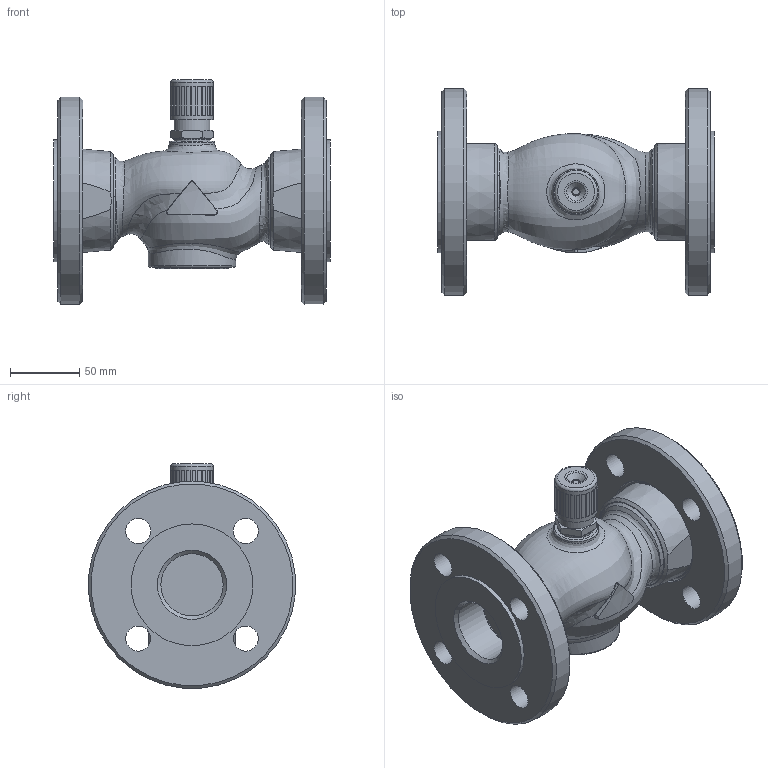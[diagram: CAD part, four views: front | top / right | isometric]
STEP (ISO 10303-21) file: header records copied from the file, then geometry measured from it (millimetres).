
FILE_DESCRIPTION(/* description */ (''),/* implementation_level */ '2;1');
FILE_NAME(/* name */ 'rv111r_dn40_2_F.stp',/* time_stamp */ '2012-01-25T07:42:34+01:00',/* author */ ('KLIMES'),/* organization */ ('LDM'),/* preprocessor_version */ 'ST-DEVELOPER v11',/* originating_system */ 'SIEMENS PLM Software NX 7.0',/* authorisation */ '');
FILE_SCHEMA (('CONFIG_CONTROL_DESIGN'));
Length unit declared in the file: millimetre
Products named in the file (1): klimF827cccu
Bounding box: 200 x 149.43 x 162.16 mm (x, y, z)
Volume: 1256795.9 mm3; surface area: 164186.6 mm2
Topology: 4 solids, 4 shells, 287 faces, 659 edges, 421 vertices
Faces by surface type: plane 139, cone 65, cylinder 41, bspline 26, torus 16
Full cylindrical faces by diameter (mm): 8 x1, 18 x8, 23.4 x1, 24.117 x1, 26 x1, 26.5 x1, 30.8 x1, 33 x1, 45 x2, 56 x1, 62.752 x2, 63 x1, 65.71 x2, 66 x2, 88 x2, 150 x2
Entity records: 13788 total; most frequent: CARTESIAN_POINT 7694, DIRECTION 1238, ORIENTED_EDGE 1122, EDGE_CURVE 561, AXIS2_PLACEMENT_3D 507, EDGE_LOOP 419, VERTEX_POINT 394, ADVANCED_FACE 287
